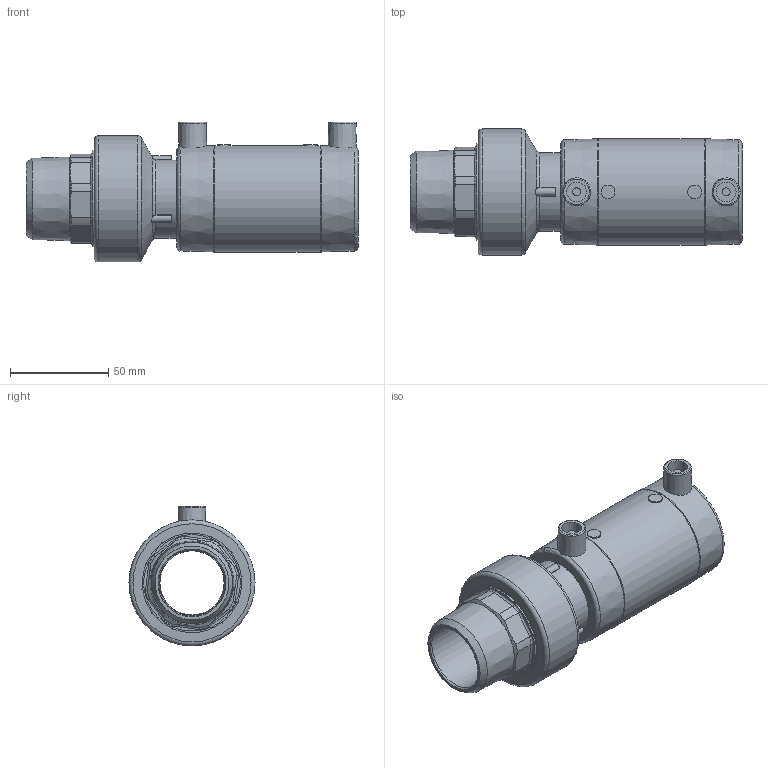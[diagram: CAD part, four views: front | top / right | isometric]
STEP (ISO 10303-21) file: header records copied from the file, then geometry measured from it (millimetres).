
FILE_DESCRIPTION(/* description */ ('Unknown'),/* implementation_level */ '2;1');
FILE_NAME(/* name */ 'MTMP040C',/* time_stamp */ '2021-03-02T09:55:30+01:00',/* author */ ('Unknown'),/* organization */ ('Unknown'),/* preprocessor_version */ 'ST-DEVELOPER v16.7',/* originating_system */ 'Solid Edge',/* authorisation */ 'Unknown');
FILE_SCHEMA (('AUTOMOTIVE_DESIGN {1 0 10303 214 3 1 1}'));
Length unit declared in the file: millimetre
Products named in the file (5): MTMP040C; MP040C; RTOMP040C; Parte PE 040; IOM040C
Assembly tree (4 placements, depth 3):
  MTMP040C
    MP040C
    RTOMP040C
      Parte PE 040
      IOM040C
Bounding box: 168.6 x 64 x 71 mm (x, y, z)
Volume: 202184.8 mm3; surface area: 79294.9 mm2
Topology: 3 solids, 3 shells, 540 faces, 1397 edges, 873 vertices
Faces by surface type: cylinder 223, plane 119, bspline 87, cone 69, torus 32, sphere 10
Full cylindrical faces by diameter (mm): 4 x2, 7 x2, 10 x2, 32.6 x1, 33.5 x1, 38 x2, 40 x2, 41.7 x1, 42 x2, 49 x1, 49.5 x2, 54 x1, 54.5 x4, 64 x1
Entity records: 20521 total; most frequent: CARTESIAN_POINT 6851, ORIENTED_EDGE 2602, DIRECTION 2260, EDGE_CURVE 1301, AXIS2_PLACEMENT_3D 1000, VERTEX_POINT 839, EDGE_LOOP 618, FACE_BOUND 618
